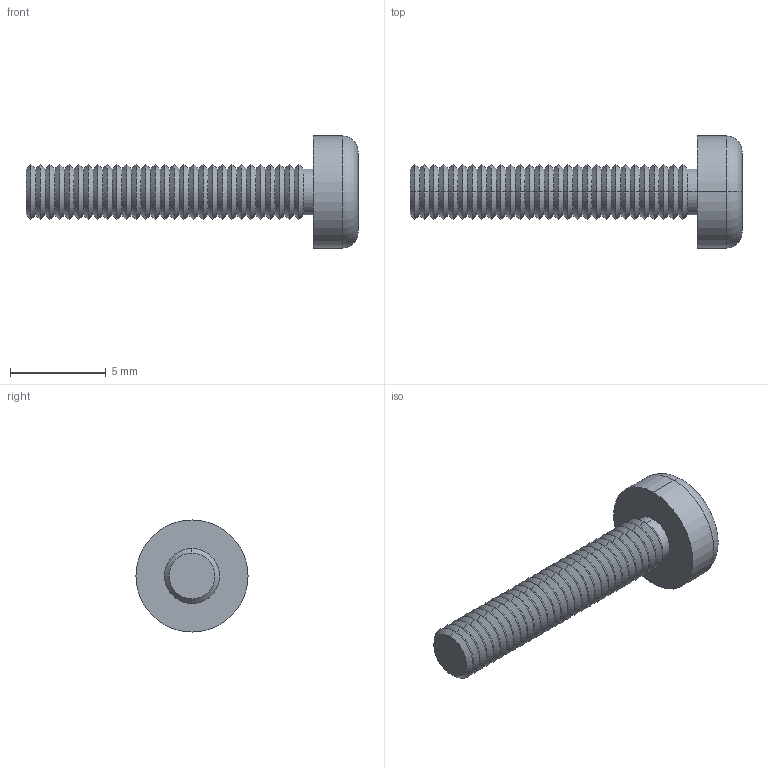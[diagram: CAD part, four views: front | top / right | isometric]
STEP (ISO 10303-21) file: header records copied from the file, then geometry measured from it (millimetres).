
FILE_DESCRIPTION (( 'STEP AP214' ), '1' );
FILE_NAME ('Metrico 3x7,9 PP63C.STEP', '2017-01-23T03:22:52', ( 'aaa' ), ( '' ), 'SwSTEP 2.0', 'SolidWorks 2013', '' );
FILE_SCHEMA (( 'AUTOMOTIVE_DESIGN' ));
Length unit declared in the file: millimetre
Products named in the file (1): Metrico 3x7,9 PP63C
Bounding box: 17.34 x 5.85 x 5.85 mm (x, y, z)
Volume: 140.1 mm3; surface area: 276.6 mm2
Topology: 1 solids, 1 shells, 138 faces, 284 edges, 150 vertices
Faces by surface type: cone 116, plane 16, cylinder 4, torus 2
Entity records: 3566 total; most frequent: DIRECTION 690, CARTESIAN_POINT 573, ORIENTED_EDGE 568, EDGE_CURVE 284, AXIS2_PLACEMENT_3D 267, LINE 156, VECTOR 156, VERTEX_POINT 150
